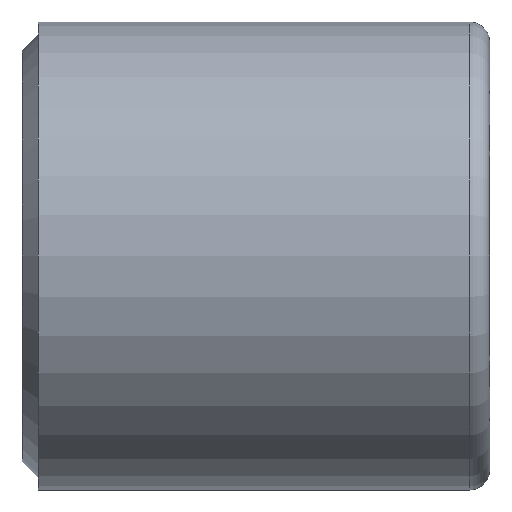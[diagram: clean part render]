
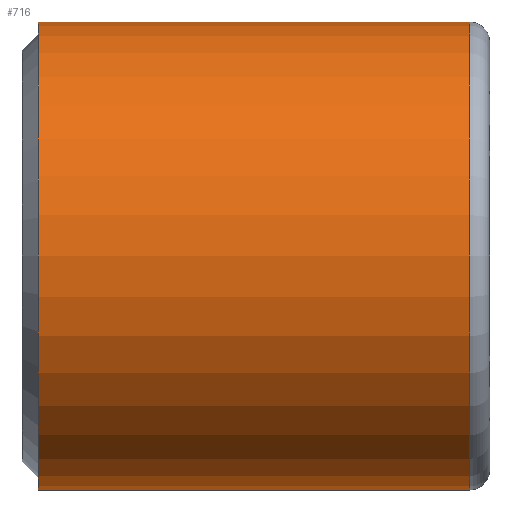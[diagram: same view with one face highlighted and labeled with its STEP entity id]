
A CAD part, front view. The second image highlights one B-rep face of the part: STEP entity #716.
In plain terms, the highlighted cylindrical face has radius 22.441 mm (diameter 44.882 mm), a partial arc.
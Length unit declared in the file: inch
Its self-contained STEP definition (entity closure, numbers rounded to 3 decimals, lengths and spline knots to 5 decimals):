
#52 = EDGE_LOOP ( 'NONE', ( #702, #425, #681, #955 ) ) ;
#116 = DIRECTION ( 'NONE',  ( -1., 0., 0. ) ) ;
#137 = VERTEX_POINT ( 'NONE', #280 ) ;
#188 = DIRECTION ( 'NONE',  ( 0., 0., 1. ) ) ;
#209 = CYLINDRICAL_SURFACE ( 'NONE', #691, 0.8835 ) ;
#219 = EDGE_CURVE ( 'NONE', #375, #137, #364, .T. ) ;
#222 = VECTOR ( 'NONE', #292, 39.37008 ) ;
#249 = DIRECTION ( 'NONE',  ( 0., 0., 1. ) ) ;
#264 = CARTESIAN_POINT ( 'NONE',  ( 0.06074, 0., 0. ) ) ;
#277 = CARTESIAN_POINT ( 'NONE',  ( 0.06074, 0., -0.8835 ) ) ;
#280 = CARTESIAN_POINT ( 'NONE',  ( 1.68924, 0., 0.8835 ) ) ;
#292 = DIRECTION ( 'NONE',  ( -1., 0., 0. ) ) ;
#319 = EDGE_CURVE ( 'NONE', #137, #649, #574, .T. ) ;
#357 = DIRECTION ( 'NONE',  ( -1., 0., 0. ) ) ;
#364 = CIRCLE ( 'NONE', #907, 0.8835 ) ;
#375 = VERTEX_POINT ( 'NONE', #759 ) ;
#425 = ORIENTED_EDGE ( 'NONE', *, *, #219, .T. ) ;
#433 = LINE ( 'NONE', #729, #569 ) ;
#460 = CARTESIAN_POINT ( 'NONE',  ( 1.68924, 0., 0. ) ) ;
#501 = CARTESIAN_POINT ( 'NONE',  ( 0.06074, 0., 0.8835 ) ) ;
#569 = VECTOR ( 'NONE', #357, 39.37008 ) ;
#574 = LINE ( 'NONE', #644, #222 ) ;
#590 = EDGE_CURVE ( 'NONE', #692, #649, #909, .T. ) ;
#644 = CARTESIAN_POINT ( 'NONE',  ( 0., 0., 0.8835 ) ) ;
#649 = VERTEX_POINT ( 'NONE', #501 ) ;
#663 = FACE_OUTER_BOUND ( 'NONE', #52, .T. ) ;
#681 = ORIENTED_EDGE ( 'NONE', *, *, #319, .T. ) ;
#691 = AXIS2_PLACEMENT_3D ( 'NONE', #876, #752, #948 ) ;
#692 = VERTEX_POINT ( 'NONE', #277 ) ;
#697 = EDGE_CURVE ( 'NONE', #375, #692, #433, .T. ) ;
#702 = ORIENTED_EDGE ( 'NONE', *, *, #697, .F. ) ;
#710 = DIRECTION ( 'NONE',  ( -1., 0., 0. ) ) ;
#716 = ADVANCED_FACE ( 'NONE', ( #663 ), #209, .T. ) ;
#729 = CARTESIAN_POINT ( 'NONE',  ( 0., 0., -0.8835 ) ) ;
#752 = DIRECTION ( 'NONE',  ( -1., 0., 0. ) ) ;
#759 = CARTESIAN_POINT ( 'NONE',  ( 1.68924, 0., -0.8835 ) ) ;
#876 = CARTESIAN_POINT ( 'NONE',  ( 0., 0., 0. ) ) ;
#880 = AXIS2_PLACEMENT_3D ( 'NONE', #264, #116, #188 ) ;
#907 = AXIS2_PLACEMENT_3D ( 'NONE', #460, #710, #249 ) ;
#909 = CIRCLE ( 'NONE', #880, 0.8835 ) ;
#948 = DIRECTION ( 'NONE',  ( 0., 0., 1. ) ) ;
#955 = ORIENTED_EDGE ( 'NONE', *, *, #590, .F. ) ;
